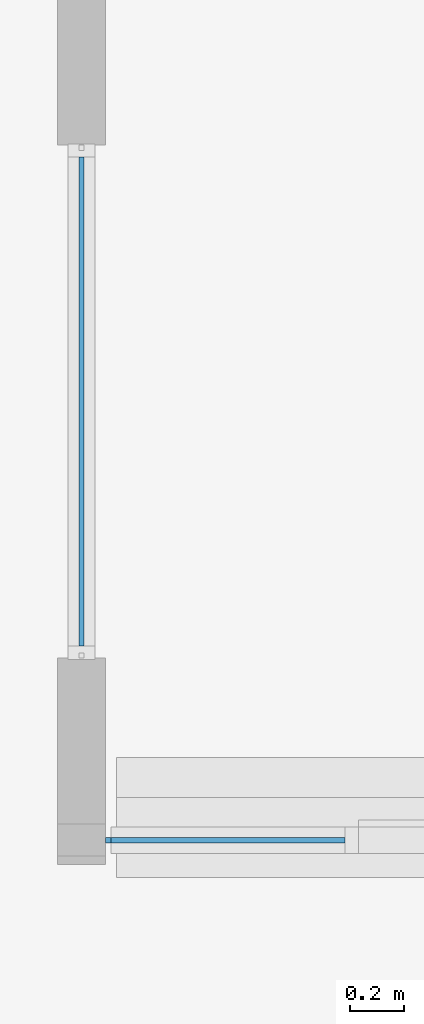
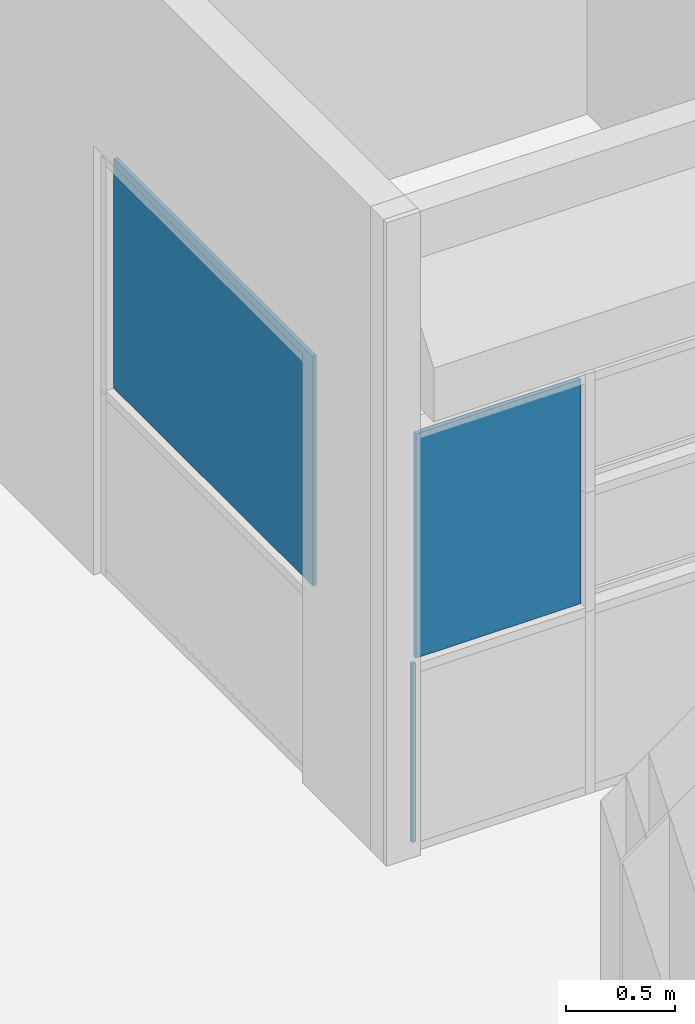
# One storey, part 32 of 117: 3 plates, 2 elements without a shape of their own.
"""IFC4 building model written with IfcOpenShell, lengths in metres."""

from ifc_helpers import new_model, entity, si_unit, converted_unit, derived_unit, direction, frame, origin, place, context, subcontext, project, spatial, indexed_curve, outline, extrude, source, transform, mapped, material, type_object, type_shapes, element, aggregate, save


model = new_model("IFC4")

# Units and contexts
model_context = context("Model", 3, precision=1e-05, world=origin(), true_north=direction((6.123031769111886e-17, 1.0)))
body_context = subcontext(model_context, "Body", "Model", "MODEL_VIEW")
ifc_project = project(units=[si_unit("LENGTHUNIT", "METRE"), si_unit("AREAUNIT", "SQUARE_METRE"), si_unit("VOLUMEUNIT", "CUBIC_METRE"), converted_unit("PLANEANGLEUNIT", "DEGREE", entity("IfcRatioMeasure", 0.017453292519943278), si_unit("PLANEANGLEUNIT", "RADIAN"), dimensions=[0, 0, 0, 0, 0, 0, 0]), si_unit("MASSUNIT", "GRAM", prefix="KILO"), derived_unit("MASSDENSITYUNIT", [(si_unit("MASSUNIT", "GRAM", prefix="KILO"), 1), (si_unit("LENGTHUNIT", "METRE"), -3)]), derived_unit("MOMENTOFINERTIAUNIT", [(si_unit("LENGTHUNIT", "METRE"), 4)]), si_unit("TIMEUNIT", "SECOND"), si_unit("FREQUENCYUNIT", "HERTZ"), si_unit("THERMODYNAMICTEMPERATUREUNIT", "DEGREE_CELSIUS"), derived_unit("THERMALTRANSMITTANCEUNIT", [(si_unit("MASSUNIT", "GRAM", prefix="KILO"), 1), (si_unit("THERMODYNAMICTEMPERATUREUNIT", "KELVIN"), -1), (si_unit("TIMEUNIT", "SECOND"), -3)]), derived_unit("VOLUMETRICFLOWRATEUNIT", [(si_unit("LENGTHUNIT", "METRE"), 3), (si_unit("TIMEUNIT", "SECOND"), -1)]), derived_unit("MASSFLOWRATEUNIT", [(si_unit("MASSUNIT", "GRAM", prefix="KILO"), 1), (si_unit("TIMEUNIT", "SECOND"), -1)]), derived_unit("ROTATIONALFREQUENCYUNIT", [(si_unit("TIMEUNIT", "SECOND"), -1)]), si_unit("ELECTRICCURRENTUNIT", "AMPERE"), si_unit("ELECTRICVOLTAGEUNIT", "VOLT"), si_unit("POWERUNIT", "WATT"), si_unit("FORCEUNIT", "NEWTON", prefix="KILO"), si_unit("ILLUMINANCEUNIT", "LUX"), si_unit("LUMINOUSFLUXUNIT", "LUMEN"), si_unit("LUMINOUSINTENSITYUNIT", "CANDELA"), derived_unit("USERDEFINED", [(si_unit("MASSUNIT", "GRAM", prefix="KILO"), -1), (si_unit("LENGTHUNIT", "METRE"), -2), (si_unit("TIMEUNIT", "SECOND"), 3), (si_unit("LUMINOUSFLUXUNIT", "LUMEN"), 1)]), derived_unit("SOUNDPOWERUNIT", [(si_unit("MASSUNIT", "GRAM", prefix="KILO"), 1), (si_unit("LENGTHUNIT", "METRE"), 2), (si_unit("TIMEUNIT", "SECOND"), -3)]), derived_unit("SOUNDPRESSUREUNIT", [(si_unit("MASSUNIT", "GRAM", prefix="KILO"), 1), (si_unit("LENGTHUNIT", "METRE"), -1), (si_unit("TIMEUNIT", "SECOND"), -2)]), derived_unit("LINEARVELOCITYUNIT", [(si_unit("LENGTHUNIT", "METRE"), 1), (si_unit("TIMEUNIT", "SECOND"), -1)]), si_unit("PRESSUREUNIT", "PASCAL"), derived_unit("USERDEFINED", [(si_unit("LENGTHUNIT", "METRE"), -2), (si_unit("MASSUNIT", "GRAM", prefix="KILO"), 1), (si_unit("TIMEUNIT", "SECOND"), -2)]), derived_unit("LINEARFORCEUNIT", [(si_unit("MASSUNIT", "GRAM", prefix="KILO"), 1), (si_unit("LENGTHUNIT", "METRE"), 1), (si_unit("TIMEUNIT", "SECOND"), -2), (si_unit("LENGTHUNIT", "METRE"), -1)]), derived_unit("PLANARFORCEUNIT", [(si_unit("MASSUNIT", "GRAM", prefix="KILO"), 1), (si_unit("LENGTHUNIT", "METRE"), 1), (si_unit("TIMEUNIT", "SECOND"), -2), (si_unit("LENGTHUNIT", "METRE"), -2)])], contexts=[model_context])

# Site, building, storey
site_placement = place(None, origin())
site = spatial("IfcSite", under=ifc_project, at=site_placement, Name="Superficie", CompositionType="ELEMENT")
building_placement = place(site_placement, origin())
building = spatial("IfcBuilding", under=site, at=building_placement, CompositionType="ELEMENT")
storey_placement = place(building_placement, origin())
storey = spatial("IfcBuildingStorey", under=building, at=storey_placement, Name="Nivel 0", CompositionType="ELEMENT", Elevation=0.0)

# Curtain wall, plates
curtain_wall_type = type_object("IfcCurtainWallType", Name="Muro cortina:Muro cortina - simple", PredefinedType="NOTDEFINED")
curtain_wall_1_placement = place(storey_placement, origin())
curtain_wall_1 = element("IfcCurtainWall", 1, at=curtain_wall_1_placement, inside=storey, type_object=curtain_wall_type, Name="Muro cortina:Muro cortina - simple", ObjectType="Muro cortina:Muro cortina - simple", PredefinedType="NOTDEFINED")
ifc_material = material(Name="Cristal", Category="Vidrio")
plate_type_1 = type_object("IfcPlateType", Name="Panel de sistema:Acristalado", PredefinedType="CURTAIN_PANEL", material=ifc_material)
shared_shape_1 = source(origin(), body_context, "Body", "SweptSolid", [
    extrude(outline(indexed_curve([(-0.01, -0.009999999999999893), (0.01, -0.009999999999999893), (0.01, 0.009999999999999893), (-0.01, 0.009999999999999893), (-0.01, -0.009999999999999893)], self_intersect=False)), frame((0.0, 0.0, 0.0), z_axis=(0.0, 0.0, 1.0), x_axis=(0.0, 1.0, 0.0)), (0.0, 0.0, 1.0), 1.0),
])
type_shapes(plate_type_1, [shared_shape_1])
plate_1_placement = place(curtain_wall_1_placement, frame((-15.313200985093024, 5.715829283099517, 0.019999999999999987)))
plate_1 = element("IfcPlate", 2, at=plate_1_placement, type_object=plate_type_1, material=ifc_material, Name="Panel de sistema:Acristalado", ObjectType="Panel de sistema:Acristalado", PredefinedType="CURTAIN_PANEL", context=body_context, shape_type="MappedRepresentation", body=[
    mapped(shared_shape_1, transform((0.0, 0.0, 0.0), scale=1.0)),
])
plate_type_2 = type_object("IfcPlateType", Name="Panel de sistema:Acristalado", PredefinedType="CURTAIN_PANEL", material=ifc_material)
shared_shape_2 = source(origin(), body_context, "Body", "SweptSolid", [
    extrude(outline(indexed_curve([(-0.6316666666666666, -0.4374999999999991), (0.008333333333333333, -0.4374999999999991), (0.6233333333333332, -0.4374999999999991), (0.6233333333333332, 0.4374999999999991), (0.008333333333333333, 0.4374999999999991), (-0.6316666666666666, 0.4374999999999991), (-0.6316666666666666, -0.4374999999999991)], self_intersect=False)), frame((0.0, -0.01, 0.6316666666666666), z_axis=(0.0, 1.0, 0.0), x_axis=(0.0, 0.0, 1.0)), (0.0, 0.0, 1.0), 0.02),
])
type_shapes(plate_type_2, [shared_shape_2])
plate_2_placement = place(curtain_wall_1_placement, frame((-14.865700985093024, 5.7158292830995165, 1.0450000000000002)))
plate_2 = element("IfcPlate", 3, at=plate_2_placement, type_object=plate_type_2, material=ifc_material, Name="Panel de sistema:Acristalado", ObjectType="Panel de sistema:Acristalado", PredefinedType="CURTAIN_PANEL", context=body_context, shape_type="MappedRepresentation", body=[
    mapped(shared_shape_2, transform((0.0, 0.0, 0.0), scale=1.0)),
])
aggregate(curtain_wall_1, [plate_1, plate_2])

# Curtain wall, plate
curtain_wall_2_placement = place(storey_placement, origin())
curtain_wall_2 = element("IfcCurtainWall", 4, at=curtain_wall_2_placement, inside=storey, type_object=curtain_wall_type, Name="Muro cortina:Muro cortina - simple", ObjectType="Muro cortina:Muro cortina - simple", PredefinedType="NOTDEFINED")
plate_type_3 = type_object("IfcPlateType", Name="Panel de sistema:Acristalado", PredefinedType="CURTAIN_PANEL", material=ifc_material)
shared_shape_3 = source(origin(), body_context, "Body", "SweptSolid", [
    extrude(outline(indexed_curve([(-0.01, -0.9136169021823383), (0.01, -0.9136169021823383), (0.01, 0.9136169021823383), (-0.01, 0.9136169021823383), (-0.01, -0.9136169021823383)], self_intersect=False)), frame((0.0, 0.0, 0.0), z_axis=(0.0, 0.0, 1.0), x_axis=(0.0, 1.0, 0.0)), (0.0, 0.0, 1.0), 1.2849999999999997),
])
type_shapes(plate_type_3, [shared_shape_3])
plate_3_placement = place(curtain_wall_2_placement, frame((-15.41320098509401, 7.354446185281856, 1.0450000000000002), z_axis=(0.0, 0.0, 1.0), x_axis=(0.0, -1.0, 0.0)))
plate_3 = element("IfcPlate", 5, at=plate_3_placement, type_object=plate_type_3, material=ifc_material, Name="Panel de sistema:Acristalado", ObjectType="Panel de sistema:Acristalado", PredefinedType="CURTAIN_PANEL", context=body_context, shape_type="MappedRepresentation", body=[
    mapped(shared_shape_3, transform((0.0, 0.0, 0.0), scale=1.0)),
])
aggregate(curtain_wall_2, [plate_3])

save(model, "model.ifc")
